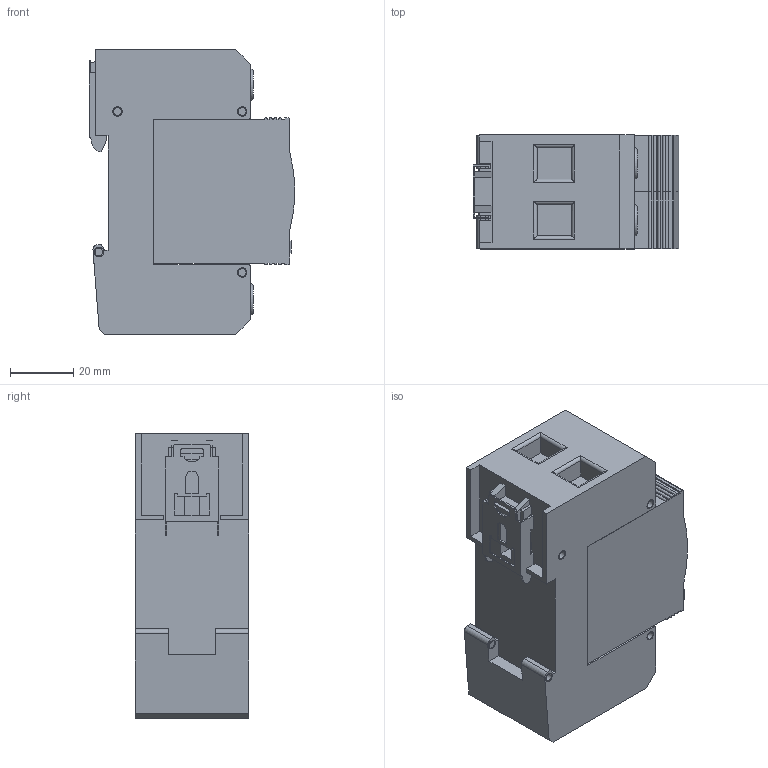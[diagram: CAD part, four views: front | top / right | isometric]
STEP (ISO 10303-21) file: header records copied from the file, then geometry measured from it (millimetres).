
FILE_DESCRIPTION(('TFLEX Exchange Step'),'2;1');
FILE_NAME('X2\041004400442\X0\.122.008.stp', '2022-08-30T14:03:27+03:00',('Ivan Berdigulov'),('Unknown organisation'),'TFLEX Exchange 2019.2','T-FLEX CAD','Unknown authorisation');
FILE_SCHEMA( ('AUTOMOTIVE_DESIGN { 1 0 10303 214 1 1 1 1 }') );
Length unit declared in the file: millimetre
Products named in the file (2): 0
Assembly tree (1 placements, depth 2):
  0
    0
Bounding box: 65.19 x 36 x 90 mm (x, y, z)
Volume: 168059.1 mm3; surface area: 38383.2 mm2
Topology: 27 solids, 27 shells, 436 faces, 1180 edges, 808 vertices
Faces by surface type: plane 293, cylinder 85, bspline 55, torus 3
Full cylindrical faces by diameter (mm): 2.5 x13, 3 x13
Entity records: 14096 total; most frequent: CARTESIAN_POINT 3233, ORIENTED_EDGE 2302, DIRECTION 1995, EDGE_CURVE 1151, VERTEX_POINT 808, VECTOR 791, LINE 791, AXIS2_PLACEMENT_3D 602
